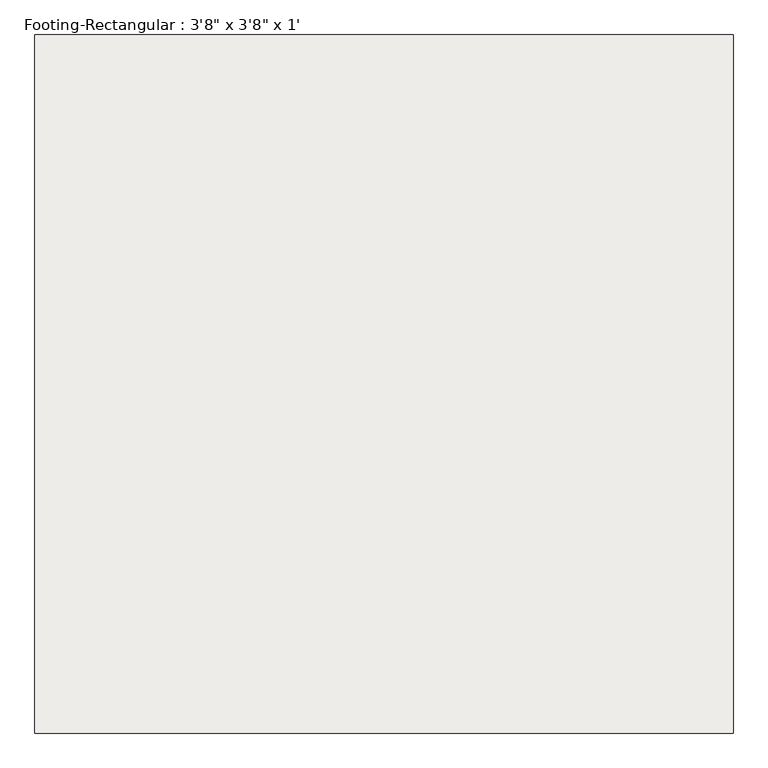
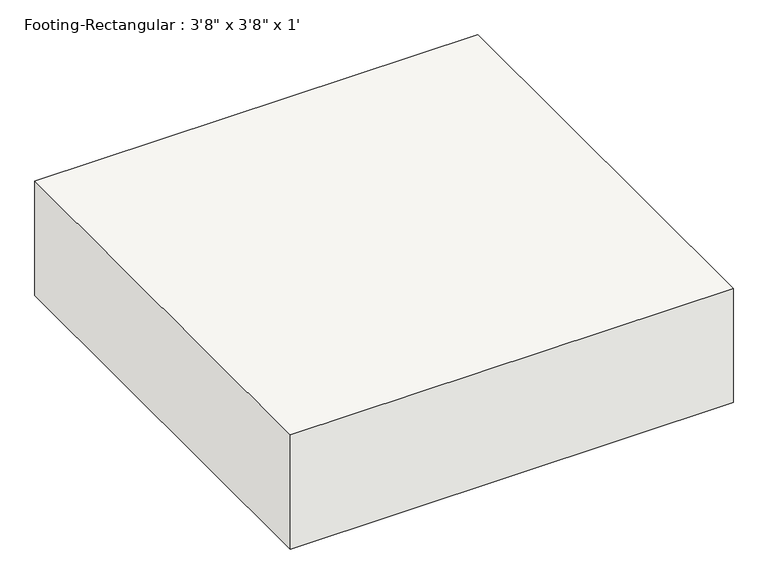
"""IFC4 building model written with IfcOpenShell, lengths in millimetres: slab geometry."""

from ifc_helpers import new_model, si_unit, frame, origin, place, context, project, spatial, polyline, outline, extrude, source, transform, mapped, element, save


def slab_c4e9b2b2(model_context):
    return source(origin(), model_context, "Body", "SweptSolid", [
        extrude(outline(polyline([(558.8, 558.8), (558.8, -558.8), (-558.8, -558.8), (-558.8, 558.8), (558.8, 558.8)])), frame((0.0, 0.0, -304.8), z_axis=(0.0, 0.0, 1.0), x_axis=(1.0, 0.0, 0.0)), (0.0, 0.0, 1.0), 304.8),
    ])


if __name__ == "__main__":
    model = new_model("IFC4")
    model_context = context("Model", 3, world=origin())
    ifc_project = project(units=[si_unit("LENGTHUNIT", "METRE", prefix="MILLI")], contexts=[model_context])
    site = spatial("IfcSite", under=ifc_project)
    building = spatial("IfcBuilding", under=site)
    placement = place(None, origin())
    slab_shape = slab_c4e9b2b2(model_context)
    element("IfcSlab", 1, ObjectType="Footing-Rectangular : 3'8\" x 3'8\" x 1'", at=placement, inside=building, context=model_context, shape_type="MappedRepresentation", body=[
        mapped(slab_shape, transform((0.0, 0.0, 0.0), x_axis=(1.0, 0.0, 0.0), y_axis=(0.0, 1.0, 0.0), z_axis=(0.0, 0.0, 1.0))),
    ])
    save(model, "model.ifc")
